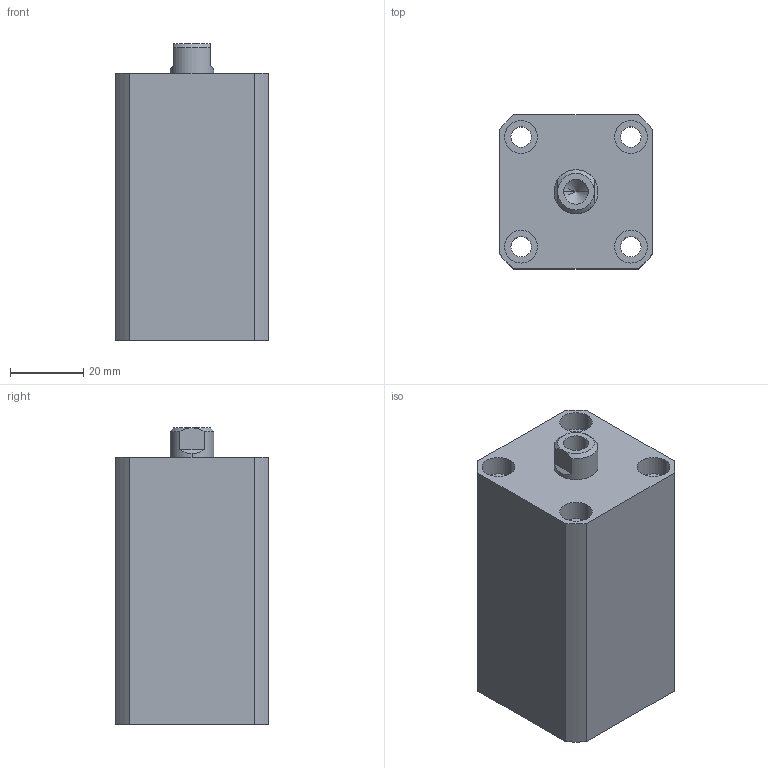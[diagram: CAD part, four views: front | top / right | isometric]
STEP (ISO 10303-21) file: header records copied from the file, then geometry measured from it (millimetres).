
FILE_DESCRIPTION (( 'STEP AP203' ), '1' );
FILE_NAME ('HTB-SDMB20-30N.STEP', '2019-10-08T11:55:28', ( '微软用户' ), ( '微软中国' ), 'SwSTEP 2.0', 'SolidWorks 2012', '' );
FILE_SCHEMA (( 'CONFIG_CONTROL_DESIGN' ));
Length unit declared in the file: millimetre
Products named in the file (3): HTB-SDMB20-30掛极; HTB-SDMB20-30N活塞杆; HTB-SDMB20-30N
Assembly tree (2 placements, depth 2):
  HTB-SDMB20-30N
    HTB-SDMB20-30掛极
    HTB-SDMB20-30N活塞杆
Bounding box: 42 x 42 x 81 mm (x, y, z)
Volume: 111654.9 mm3; surface area: 28652 mm2
Topology: 2 solids, 2 shells, 136 faces, 326 edges, 213 vertices
Faces by surface type: plane 64, cylinder 46, bspline 16, torus 6, cone 4
Entity records: 5023 total; most frequent: CARTESIAN_POINT 1570, ORIENTED_EDGE 648, DIRECTION 640, EDGE_CURVE 324, AXIS2_PLACEMENT_3D 231, VERTEX_POINT 213, VECTOR 178, LINE 178
